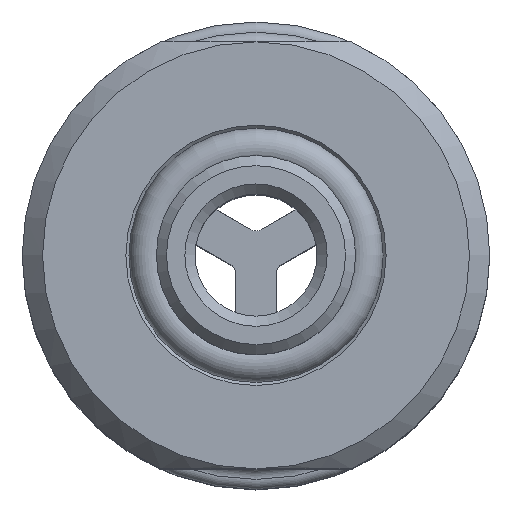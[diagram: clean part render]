
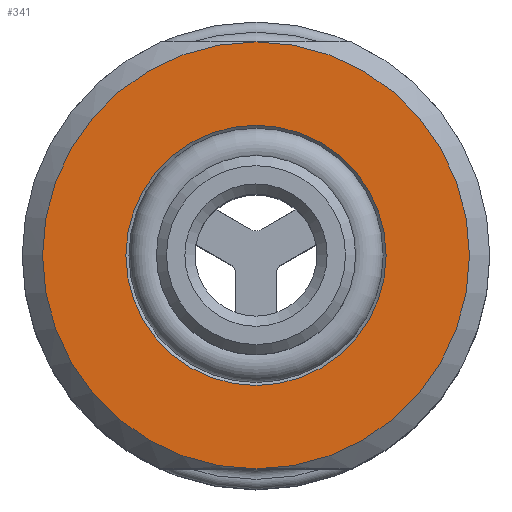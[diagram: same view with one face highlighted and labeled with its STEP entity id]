
A CAD part, top view. The second image highlights one B-rep face of the part: STEP entity #341.
In plain terms, the highlighted planar face has unit normal (0, 0, 1).
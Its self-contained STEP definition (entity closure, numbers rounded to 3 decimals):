
#341 = ADVANCED_FACE( '', ( #1236, #1237 ), #1238, .F. );
#1236 = FACE_OUTER_BOUND( '', #2779, .T. );
#1237 = FACE_BOUND( '', #2780, .T. );
#1238 = PLANE( '', #2781 );
#2779 = EDGE_LOOP( '', ( #8369, #8370 ) );
#2780 = EDGE_LOOP( '', ( #8371 ) );
#2781 = AXIS2_PLACEMENT_3D( '', #8372, #8373, #8374 );
#8369 = ORIENTED_EDGE( '', *, *, #12399, .F. );
#8370 = ORIENTED_EDGE( '', *, *, #12368, .F. );
#8371 = ORIENTED_EDGE( '', *, *, #12403, .T. );
#8372 = CARTESIAN_POINT( '', ( -6.4, 0., 3.683 ) );
#8373 = DIRECTION( '', ( 0., 0., -1. ) );
#8374 = DIRECTION( '', ( -1., 0., 0. ) );
#12368 = EDGE_CURVE( '', #14193, #14195, #14196, .T. );
#12399 = EDGE_CURVE( '', #14195, #14193, #14250, .T. );
#12403 = EDGE_CURVE( '', #14254, #14254, #14255, .T. );
#14193 = VERTEX_POINT( '', #17765 );
#14195 = VERTEX_POINT( '', #17774 );
#14196 = CIRCLE( '', #17775, 10.5 );
#14250 = CIRCLE( '', #17875, 10.5 );
#14254 = VERTEX_POINT( '', #17879 );
#14255 = CIRCLE( '', #17880, 6.4 );
#17765 = CARTESIAN_POINT( '', ( 0., -10.5, 3.683 ) );
#17774 = CARTESIAN_POINT( '', ( 0., 10.5, 3.683 ) );
#17775 = AXIS2_PLACEMENT_3D( '', #26419, #26420, #26421 );
#17875 = AXIS2_PLACEMENT_3D( '', #26457, #26458, #26459 );
#17879 = CARTESIAN_POINT( '', ( -6.4, 0., 3.683 ) );
#17880 = AXIS2_PLACEMENT_3D( '', #26469, #26470, #26471 );
#26419 = CARTESIAN_POINT( '', ( 0., 0., 3.683 ) );
#26420 = DIRECTION( '', ( 0., 0., -1. ) );
#26421 = DIRECTION( '', ( -1., 0., 0. ) );
#26457 = CARTESIAN_POINT( '', ( 0., 0., 3.683 ) );
#26458 = DIRECTION( '', ( 0., 0., -1. ) );
#26459 = DIRECTION( '', ( -1., 0., 0. ) );
#26469 = CARTESIAN_POINT( '', ( 0., 0., 3.683 ) );
#26470 = DIRECTION( '', ( 0., 0., -1. ) );
#26471 = DIRECTION( '', ( -1., 0., 0. ) );
